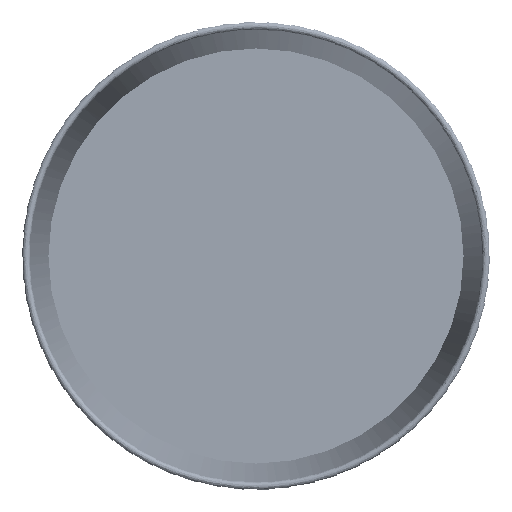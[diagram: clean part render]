
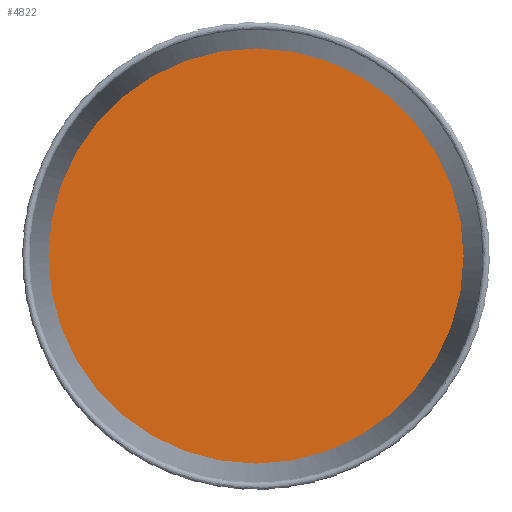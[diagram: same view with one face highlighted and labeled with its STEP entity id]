
A CAD part, front view. The second image highlights one B-rep face of the part: STEP entity #4822.
In plain terms, the highlighted planar face has unit normal (0, -1, 0).
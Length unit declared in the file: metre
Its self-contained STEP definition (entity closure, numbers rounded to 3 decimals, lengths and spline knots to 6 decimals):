
#4822 = ADVANCED_FACE( '', ( #9644 ), #9645, .T. );
#9644 = FACE_OUTER_BOUND( '', #22425, .T. );
#9645 = PLANE( '', #22426 );
#22425 = EDGE_LOOP( '', ( #66978 ) );
#22426 = AXIS2_PLACEMENT_3D( '', #66979, #66980, #66981 );
#66978 = ORIENTED_EDGE( '', *, *, #88612, .T. );
#66979 = CARTESIAN_POINT( '', ( 42.791674, 9.019604, 0. ) );
#66980 = DIRECTION( '', ( 0., -1., 0. ) );
#66981 = DIRECTION( '', ( 0., 0., -1. ) );
#88612 = EDGE_CURVE( '', #94134, #94134, #94135, .T. );
#94134 = VERTEX_POINT( '', #104428 );
#94135 = CIRCLE( '', #104429, 0.2 );
#104428 = CARTESIAN_POINT( '', ( 42.841674, 9.019604, 0. ) );
#104429 = AXIS2_PLACEMENT_3D( '', #129109, #129110, #129111 );
#129109 = CARTESIAN_POINT( '', ( 42.641674, 9.019604, 0. ) );
#129110 = DIRECTION( '', ( 0., -1., 0. ) );
#129111 = DIRECTION( '', ( 1., 0., 0. ) );
